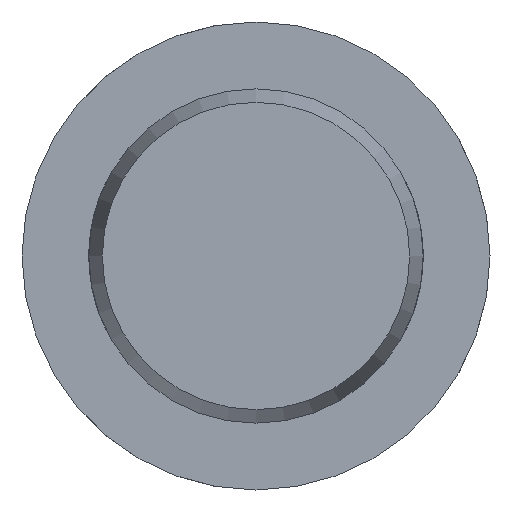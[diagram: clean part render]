
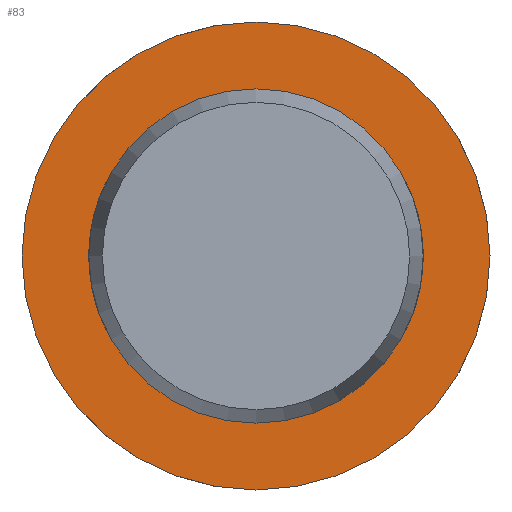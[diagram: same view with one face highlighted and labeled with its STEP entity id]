
A CAD part, left-side view. The second image highlights one B-rep face of the part: STEP entity #83.
In plain terms, the highlighted planar face has unit normal (-1, 0, 0).
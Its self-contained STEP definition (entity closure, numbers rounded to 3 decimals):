
#83 = ADVANCED_FACE( '', ( #129, #130 ), #131, .F. );
#129 = FACE_OUTER_BOUND( '', #208, .T. );
#130 = FACE_BOUND( '', #209, .T. );
#131 = PLANE( '', #210 );
#208 = EDGE_LOOP( '', ( #325 ) );
#209 = EDGE_LOOP( '', ( #326 ) );
#210 = AXIS2_PLACEMENT_3D( '', #327, #328, #329 );
#325 = ORIENTED_EDGE( '', *, *, #493, .F. );
#326 = ORIENTED_EDGE( '', *, *, #483, .T. );
#327 = CARTESIAN_POINT( '', ( 110.5, 10., 0. ) );
#328 = DIRECTION( '', ( 1., 0., 0. ) );
#329 = DIRECTION( '', ( 0., 0., -1. ) );
#483 = EDGE_CURVE( '', #554, #554, #555, .T. );
#493 = EDGE_CURVE( '', #572, #572, #573, .T. );
#554 = VERTEX_POINT( '', #759 );
#555 = CIRCLE( '', #760, 10. );
#572 = VERTEX_POINT( '', #942 );
#573 = CIRCLE( '', #943, 14. );
#759 = CARTESIAN_POINT( '', ( 110.5, 0., -10. ) );
#760 = AXIS2_PLACEMENT_3D( '', #1006, #1007, #1008 );
#942 = CARTESIAN_POINT( '', ( 110.5, 0., -14. ) );
#943 = AXIS2_PLACEMENT_3D( '', #1027, #1028, #1029 );
#1006 = CARTESIAN_POINT( '', ( 110.5, 0., 0. ) );
#1007 = DIRECTION( '', ( 1., 0., 0. ) );
#1008 = DIRECTION( '', ( 0., 0., -1. ) );
#1027 = CARTESIAN_POINT( '', ( 110.5, 0., 0. ) );
#1028 = DIRECTION( '', ( 1., 0., 0. ) );
#1029 = DIRECTION( '', ( 0., 0., -1. ) );
